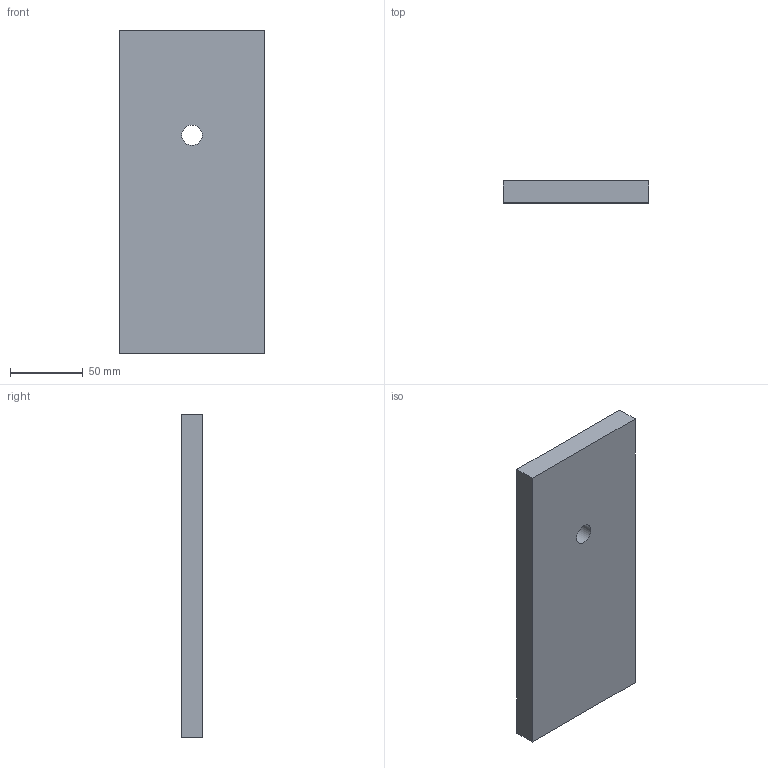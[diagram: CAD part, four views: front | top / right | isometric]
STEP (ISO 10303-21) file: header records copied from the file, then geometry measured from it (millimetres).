
FILE_DESCRIPTION(/* description */ ('TURBOFLEX TF-3621 spacer Thickness 15mm aluminum mill finish'),/* implementation_level */ '2;1');
FILE_NAME(/* name */ '1036215001x.stp',/* time_stamp */ '2025-11-13T10:34:12+01:00',/* author */ ('nethmini'),/* organization */ (''),/* preprocessor_version */ 'ST-DEVELOPER v19.2',/* originating_system */ 'Autodesk Inventor 2024',/* authorisation */ '');
FILE_SCHEMA (('AUTOMOTIVE_DESIGN { 1 0 10303 214 3 1 1 }'));
Length unit declared in the file: millimetre
Products named in the file (1): 10362150010
Bounding box: 100 x 15 x 222 mm (x, y, z)
Volume: 330690.9 mm3; surface area: 54411.9 mm2
Topology: 1 solids, 1 shells, 7 faces, 15 edges, 10 vertices
Faces by surface type: plane 6, cylinder 1
Full cylindrical faces by diameter (mm): 14 x1
Entity records: 238 total; most frequent: DIRECTION 33, CARTESIAN_POINT 33, ORIENTED_EDGE 30, EDGE_CURVE 15, LINE 13, VECTOR 13, VERTEX_POINT 10, AXIS2_PLACEMENT_3D 10
